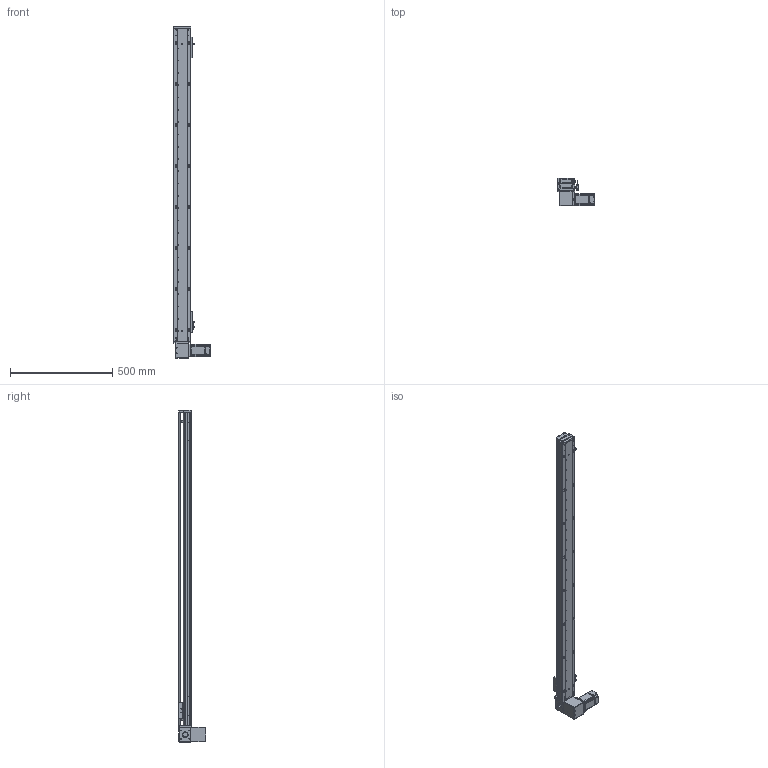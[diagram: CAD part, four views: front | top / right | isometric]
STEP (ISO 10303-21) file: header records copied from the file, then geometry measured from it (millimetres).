
FILE_DESCRIPTION (( 'STEP AP203' ), '1' );
FILE_NAME ('RY80-T-300-DR.SLDASM_1350.step', '2021-03-01T01:50:38', ( '盈信电脑' ), ( '东莞市道滘镇水果街19号' ), 'SwSTEP 2.0', 'SolidWorks 2012', '' );
FILE_SCHEMA (( 'CONFIG_CONTROL_DESIGN' ));
Length unit declared in the file: millimetre
Products named in the file (18): RY80-T-300-DR.SLDASM_1350; 1; RY80-T肮祭謫狟殏俋欶; RY80-T萇儂假蚾啣; RY80-T-M4蹟翐3; RY80-T-上下折同步轮盖板; 滅袉蝶18-10; RY80-T翋肮祭謫裔啣; RY80-T肮祭湍揤輸1; RY80俋离覜茼え; RY80-T-翋肮祭謫釱; RY80-T肮祭湍揤輸2; 672嫖萇羲壽假蚾釱; 覜茼ん672; RY80-T綴裔啣; RY80-T-300-DR倰第奻裔啣_1350; RY80-T肮祭謫臏賑輸; RY80-T-300-DR倰第菁釱_1350
Assembly tree (21 placements, depth 2):
  RY80-T-300-DR.SLDASM_1350
    RY80-T-300-DR倰第菁釱_1350
    RY80-T肮祭謫臏賑輸
    RY80-T-300-DR倰第奻裔啣_1350
    RY80-T綴裔啣
    672嫖萇羲壽假蚾釱  x2
    覜茼ん672  x3
    RY80俋离覜茼え
    RY80-T-翋肮祭謫釱
    RY80-T肮祭湍揤輸1
    RY80-T肮祭湍揤輸2
    滅袉蝶18-10  x2
    RY80-T翋肮祭謫裔啣
    RY80-T-上下折同步轮盖板
    RY80-T肮祭謫狟殏俋欶
    RY80-T萇儂假蚾啣
    1
    RY80-T-M4蹟翐3
Bounding box: 180 x 134.5 x 1620 mm (x, y, z)
Volume: 2618976.2 mm3; surface area: 1106742.3 mm2
Topology: 21 solids, 21 shells, 2468 faces, 6840 edges, 4442 vertices
Faces by surface type: plane 1315, cylinder 955, cone 142, bspline 56
Entity records: 79186 total; most frequent: CARTESIAN_POINT 19506, ORIENTED_EDGE 12324, DIRECTION 11526, EDGE_CURVE 6162, VERTEX_POINT 4046, AXIS2_PLACEMENT_3D 3882, VECTOR 3762, LINE 3762
